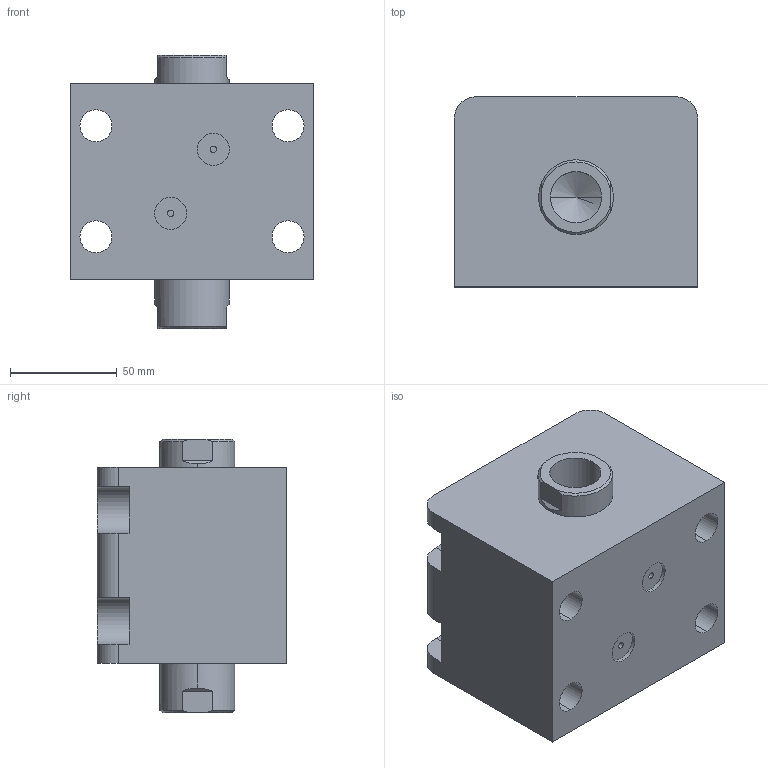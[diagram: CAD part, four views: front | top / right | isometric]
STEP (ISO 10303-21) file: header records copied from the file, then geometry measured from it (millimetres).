
FILE_DESCRIPTION (( 'STEP AP203' ), '1' );
FILE_NAME ('HTB-LWM63-10N.STEP', '2020-12-25T03:34:18', ( '微软用户' ), ( '微软中国' ), 'SwSTEP 2.0', 'SolidWorks 2012', '' );
FILE_SCHEMA (( 'CONFIG_CONTROL_DESIGN' ));
Length unit declared in the file: millimetre
Products named in the file (3): HTB-LWM63-10N; HTB-LWM63-10掛极; HTB-LWM63-10N活塞杆
Assembly tree (2 placements, depth 2):
  HTB-LWM63-10N
    HTB-LWM63-10掛极
    HTB-LWM63-10N活塞杆
Bounding box: 114 x 89 x 128 mm (x, y, z)
Volume: 827765.4 mm3; surface area: 114571.6 mm2
Topology: 2 solids, 2 shells, 94 faces, 234 edges, 150 vertices
Faces by surface type: cylinder 42, plane 36, torus 8, cone 8
Entity records: 3139 total; most frequent: CARTESIAN_POINT 535, DIRECTION 516, ORIENTED_EDGE 460, EDGE_CURVE 230, AXIS2_PLACEMENT_3D 203, VERTEX_POINT 150, EDGE_LOOP 114, VECTOR 110
